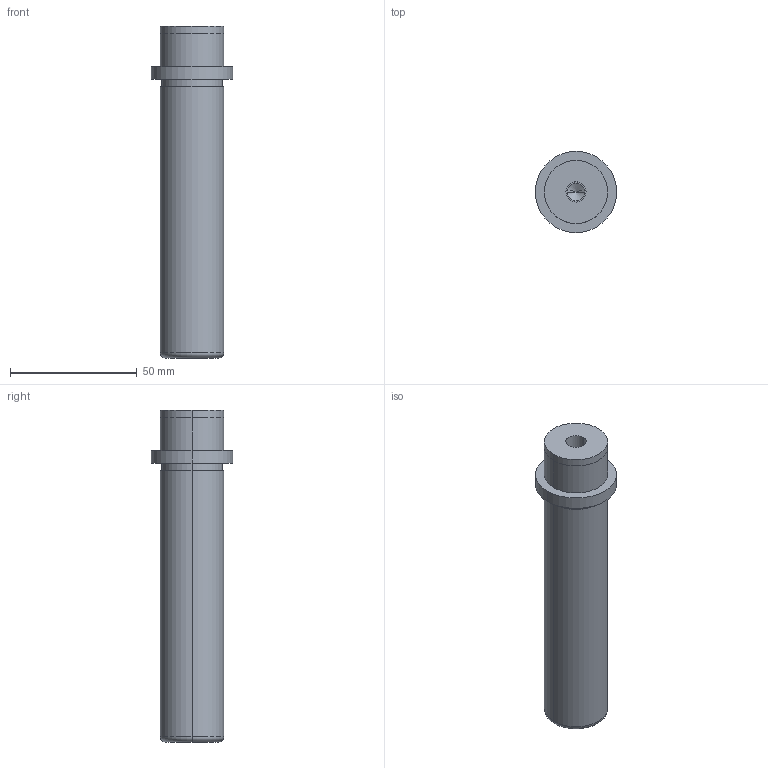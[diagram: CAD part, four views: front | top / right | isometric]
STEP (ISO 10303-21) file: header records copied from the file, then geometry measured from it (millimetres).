
FILE_DESCRIPTION(/* description */ (''),/* implementation_level */ '2;1');
FILE_NAME(/* name */ '3d_sgpw25-115_05268_r00.stp',/* time_stamp */ '2011-01-10T14:11:03+09:00',/* author */ ('MISUMI'),/* organization */ (''),/* preprocessor_version */ 'ST-DEVELOPER v11',/* originating_system */ 'UGS - NX 5.0',/* authorisation */ '');
FILE_SCHEMA (('CONFIG_CONTROL_DESIGN'));
Length unit declared in the file: millimetre
Products named in the file (1): 3d_sgpw25-115_05268_r00
Bounding box: 32 x 32 x 131 mm (x, y, z)
Volume: 63688.5 mm3; surface area: 13007 mm2
Topology: 1 solids, 1 shells, 31 faces, 64 edges, 38 vertices
Faces by surface type: cylinder 18, plane 7, cone 4, torus 2
Entity records: 890 total; most frequent: DIRECTION 162, CARTESIAN_POINT 130, ORIENTED_EDGE 120, AXIS2_PLACEMENT_3D 70, EDGE_CURVE 60, EDGE_LOOP 38, CIRCLE 38, VERTEX_POINT 38
